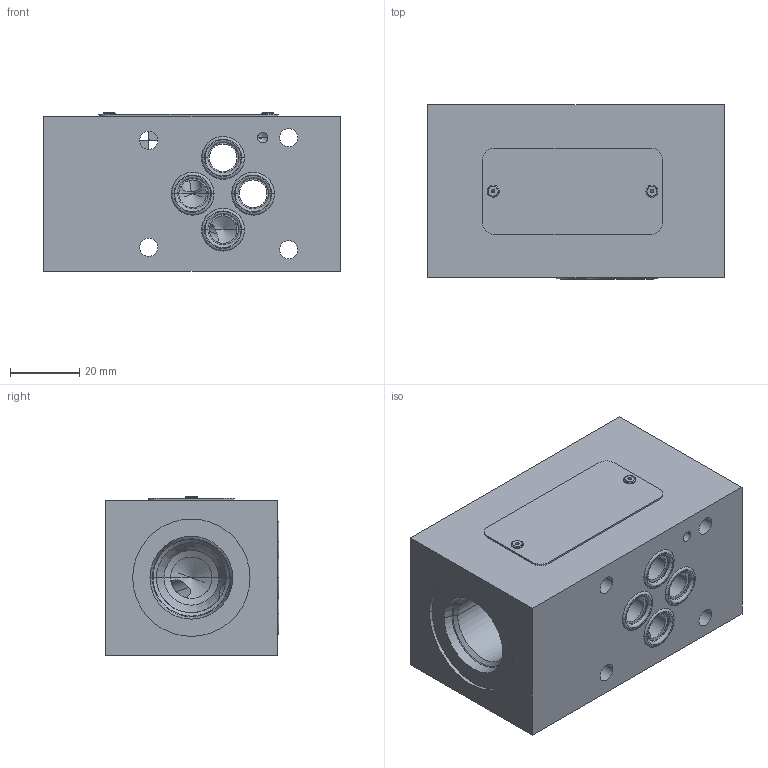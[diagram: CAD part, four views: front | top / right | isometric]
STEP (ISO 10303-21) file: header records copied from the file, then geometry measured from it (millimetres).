
FILE_DESCRIPTION((''),'2;1');
FILE_NAME('31648000_ASM','2023-10-12T',('l.soukupova'),(''),'PRO/ENGINEER BY PARAMETRIC TECHNOLOGY CORPORATION, 2015440','PRO/ENGINEER BY PARAMETRIC TECHNOLOGY CORPORATION, 2015440','');
FILE_SCHEMA(('AUTOMOTIVE_DESIGN { 1 0 10303 214 1 1 1 1 }'));
Length unit declared in the file: millimetre
Products named in the file (8): 31647901; RD_LABEL_25X52_159703; AF_1932_16485; ORAR00012_201524_AF4; ORAR00012_201524_AF5; ORAR00012_201524_AF6; ORAR00012_201524_AF7; 31648000_ASM
Assembly tree (8 placements, depth 2):
  31648000_ASM
    31647901
    RD_LABEL_25X52_159703
    AF_1932_16485  x2
    ORAR00012_201524_AF4
    ORAR00012_201524_AF5
    ORAR00012_201524_AF6
    ORAR00012_201524_AF7
Bounding box: 86 x 50.38 x 46 mm (x, y, z)
Volume: 168659.7 mm3; surface area: 35576.5 mm2
Topology: 8 solids, 11 shells, 189 faces, 559 edges, 459 vertices
Faces by surface type: cylinder 90, torus 36, plane 34, cone 29
Entity records: 10280 total; most frequent: CARTESIAN_POINT 1783, DIRECTION 1210, ORIENTED_EDGE 796, PRESENTATION_STYLE_ASSIGNMENT 685, STYLED_ITEM 578, CURVE_STYLE 569, AXIS2_PLACEMENT_3D 494, EDGE_CURVE 404
